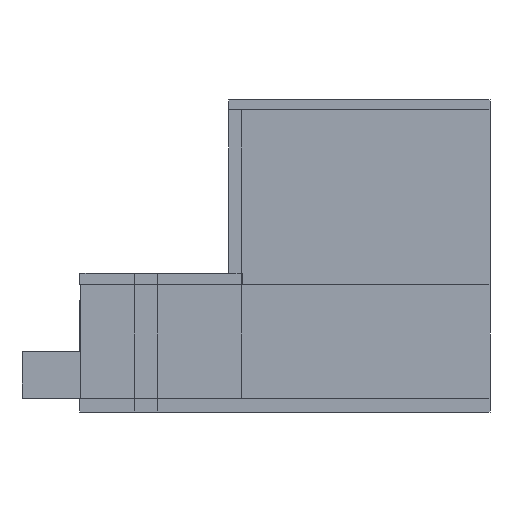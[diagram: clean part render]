
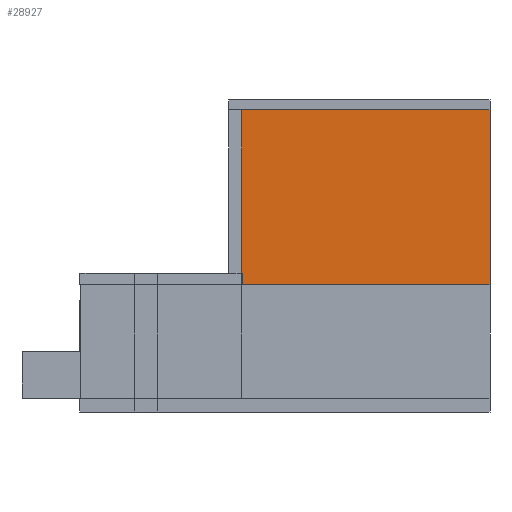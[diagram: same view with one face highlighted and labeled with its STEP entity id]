
A CAD part, left-side view. The second image highlights one B-rep face of the part: STEP entity #28927.
In plain terms, the highlighted free-form (B-spline) face has degree [1, 1] with [2, 2] control points.
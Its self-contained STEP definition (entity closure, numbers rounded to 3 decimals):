
#28704 = CARTESIAN_POINT ('', (-126592.217, -56533.569, 2880.));
#28705 = VERTEX_POINT ('', #28704);
#28720 = CARTESIAN_POINT ('', (-126592.217, -56533.569, 7350.));
#28721 = VERTEX_POINT ('', #28720);
#28727 = CARTESIAN_POINT ('', (-126592.217, -56533.569, 2880.));
#28728 = CARTESIAN_POINT ('', (-126592.217, -56533.569, 7350.));
#28729 = B_SPLINE_CURVE_WITH_KNOTS ('', 1, (#28727, #28728), .UNSPECIFIED., .F., .U., (2, 2), (0., 1.), .UNSPECIFIED.);
#28730 = EDGE_CURVE ('', #28705, #28721, #28729, .T.);
#28872 = CARTESIAN_POINT ('', (-126592.217, -50188.569, 7350.));
#28873 = VERTEX_POINT ('', #28872);
#28879 = CARTESIAN_POINT ('', (-126592.217, -56533.569, 7350.));
#28880 = CARTESIAN_POINT ('', (-126592.217, -50188.569, 7350.));
#28881 = B_SPLINE_CURVE_WITH_KNOTS ('', 1, (#28879, #28880), .UNSPECIFIED., .F., .U., (2, 2), (0., 1.), .UNSPECIFIED.);
#28882 = EDGE_CURVE ('', #28721, #28873, #28881, .T.);
#28906 = CARTESIAN_POINT ('', (-126592.217, -50188.569, 2880.));
#28907 = VERTEX_POINT ('', #28906);
#28908 = CARTESIAN_POINT ('', (-126592.217, -50188.569, 2880.));
#28909 = CARTESIAN_POINT ('', (-126592.217, -56533.569, 2880.));
#28910 = B_SPLINE_CURVE_WITH_KNOTS ('', 1, (#28908, #28909), .UNSPECIFIED., .F., .U., (2, 2), (0., 1.), .UNSPECIFIED.);
#28911 = EDGE_CURVE ('', #28907, #28705, #28910, .T.);
#28912 = ORIENTED_EDGE ('', *, *, #28911, .T.);
#28913 = ORIENTED_EDGE ('', *, *, #28730, .T.);
#28914 = ORIENTED_EDGE ('', *, *, #28882, .T.);
#28915 = CARTESIAN_POINT ('', (-126592.217, -50188.569, 2880.));
#28916 = CARTESIAN_POINT ('', (-126592.217, -50188.569, 7350.));
#28917 = B_SPLINE_CURVE_WITH_KNOTS ('', 1, (#28915, #28916), .UNSPECIFIED., .F., .U., (2, 2), (0., 1.), .UNSPECIFIED.);
#28918 = EDGE_CURVE ('', #28907, #28873, #28917, .T.);
#28919 = ORIENTED_EDGE ('', *, *, #28918, .F.);
#28920 = EDGE_LOOP ('', (#28912, #28913, #28914, #28919));
#28921 = FACE_OUTER_BOUND ('', #28920, .T.);
#28922 = CARTESIAN_POINT ('', (-126592.217, -50188.569, 2880.));
#28923 = CARTESIAN_POINT ('', (-126592.217, -50188.569, 7350.));
#28924 = CARTESIAN_POINT ('', (-126592.217, -56533.569, 2880.));
#28925 = CARTESIAN_POINT ('', (-126592.217, -56533.569, 7350.));
#28926 = B_SPLINE_SURFACE_WITH_KNOTS ('', 1, 1, ((#28922, #28923), (#28924, #28925)), .UNSPECIFIED., .F., .F., .U., (2, 2), (2, 2), (0., 1.), (0., 1.), .UNSPECIFIED.);
#28927 = ADVANCED_FACE ('', (#28921), #28926, .T.);
